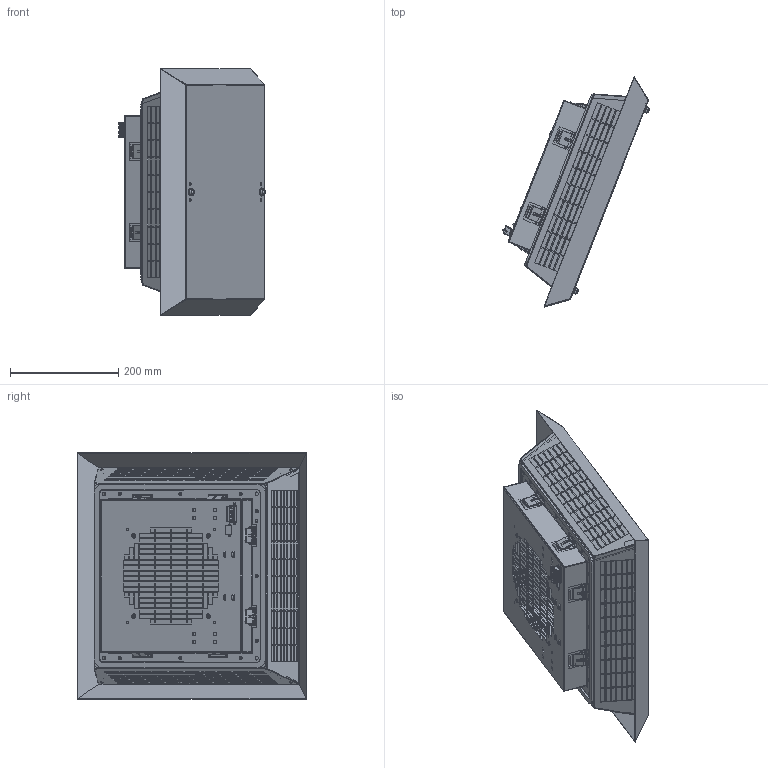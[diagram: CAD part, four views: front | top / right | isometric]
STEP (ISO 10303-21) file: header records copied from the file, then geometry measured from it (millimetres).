
FILE_DESCRIPTION((''),'2;1');
FILE_NAME('SCE-N12TM5CF230V_ASM','2021-10-13T15:53:27',('mikek'),('SAGINAW CONTROL & ENGINEERING'),'CREO PARAMETRIC BY PTC INC, 2017260','CREO PARAMETRIC BY PTC INC, 2017260','');
FILE_SCHEMA(('AUTOMOTIVE_DESIGN { 1 0 10303 214 1 1 1 1 }'));
Products named in the file (22): ROOF-FILTER-FAN-HOUSING; ROOF-FILTER-FAN-GASKET; ROOF-FILTER-FAN-M3-RIVET; ROOF-FILTER-FAN-FILTER; ROOF-FILTER-FAN-HOUSING_ASM; ROOF-FILTER-FAN-INTAKE; ROOF-FILTER-FAN-M4-STUD; ROOF-FILTER-FAN-CLIP-OPEN; ROOF-FILTER-FAN-CLIP-CLOSED; ROOF-FILTER-FAN-M4-RIVET; ROOF-FILTER-FAN-WIRE-PLUG-TOP; ROOF-FILTER-FAN-WIRE-PLUG-BTM; ROOF-FILTER-FAN-WIRE-PLUG-BTM_ASM; ROOF-FILTER-FAN-WIRE-PLUG-ASM_ASM; ROOF-FILTER-FAN-INTAKE_ASM; ROOF-FILTER-FAN-COVER; ROOF-FILTER-FAN-LATCH-SPACER; ROOF-FILTER-FAN-LATCH-STUD; ROOF-FILTER-FAN-LATCH-E-CLIP; ROOF-FILTER-FAN-1-4-TURN-LATCH_ASM; ROOF-FILTER-FAN-COVER_ASM; SCE-N12TM5CF230V_ASM
Assembly tree (53 placements, depth 5):
  SCE-N12TM5CF230V_ASM
    ROOF-FILTER-FAN-HOUSING_ASM
      ROOF-FILTER-FAN-HOUSING
      ROOF-FILTER-FAN-GASKET
      ROOF-FILTER-FAN-M3-RIVET  x4
      ROOF-FILTER-FAN-FILTER  x4
    ROOF-FILTER-FAN-INTAKE_ASM
      ROOF-FILTER-FAN-INTAKE
      ROOF-FILTER-FAN-M4-STUD
      ROOF-FILTER-FAN-CLIP-OPEN  x4
      ROOF-FILTER-FAN-CLIP-CLOSED  x4
      ROOF-FILTER-FAN-M4-RIVET  x4
      ROOF-FILTER-FAN-WIRE-PLUG-ASM_ASM
        ROOF-FILTER-FAN-WIRE-PLUG-TOP
        ROOF-FILTER-FAN-WIRE-PLUG-BTM_ASM
          ROOF-FILTER-FAN-WIRE-PLUG-BTM
      ROOF-FILTER-FAN-M3-RIVET  x12
    ROOF-FILTER-FAN-COVER_ASM
      ROOF-FILTER-FAN-COVER
      ROOF-FILTER-FAN-M3-RIVET  x4
      ROOF-FILTER-FAN-1-4-TURN-LATCH_ASM  x2
        ROOF-FILTER-FAN-LATCH-SPACER
        ROOF-FILTER-FAN-LATCH-STUD
        ROOF-FILTER-FAN-LATCH-E-CLIP
Bounding box: 271.71 x 425.4 x 457.12 mm (x, y, z)
Volume: 1987841.3 mm3; surface area: 1476118.4 mm2
Topology: 49 solids, 64 shells, 6314 faces, 17732 edges, 11582 vertices
Faces by surface type: plane 4880, cylinder 1044, cone 128, torus 124, bspline 116, sphere 16, extrusion 6
Entity records: 155010 total; most frequent: CARTESIAN_POINT 31217, ORIENTED_EDGE 26088, DIRECTION 23134, EDGE_CURVE 13046, VECTOR 11180, LINE 11174, VERTEX_POINT 8511, AXIS2_PLACEMENT_3D 5977
